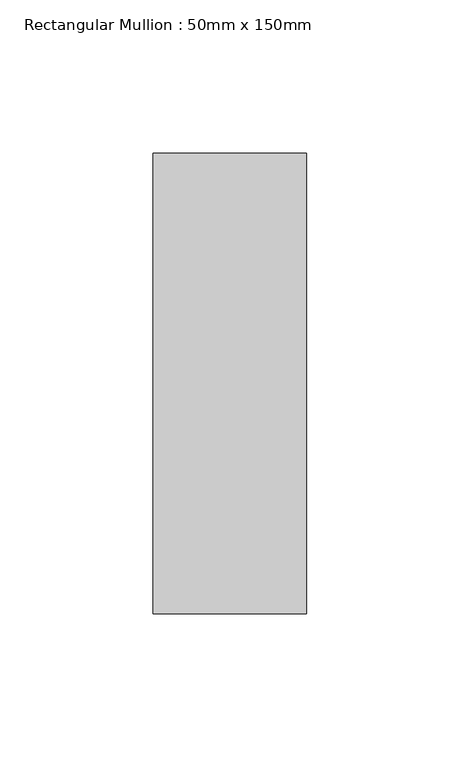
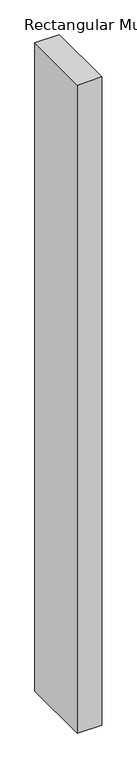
"""IFC4 building model written with IfcOpenShell, lengths in millimetres: member geometry, Rectangular Mullion : 50mm x 150mm."""

from ifc_helpers import new_model, si_unit, frame, origin, place, context, project, spatial, polyline, outline, extrude, source, transform, mapped, element, save


def rectangular_mullion_50mm_x_150mm_6edb5cd3(model_context):
    return source(origin(), model_context, "Body", "SweptSolid", [
        extrude(outline(polyline([(25.0, 75.0), (25.0, -75.0), (-25.0, -75.0), (-25.0, 75.0), (25.0, 75.0)])), frame((0.0, 0.0, -1402.3178264), z_axis=(0.0, 0.0, 1.0), x_axis=(1.0, 0.0, 0.0)), (0.0, 0.0, 1.0), 1402.3178264),
    ])


if __name__ == "__main__":
    model = new_model("IFC4")
    model_context = context("Model", 3, world=origin())
    ifc_project = project(units=[si_unit("LENGTHUNIT", "METRE", prefix="MILLI")], contexts=[model_context])
    site = spatial("IfcSite", under=ifc_project)
    building = spatial("IfcBuilding", under=site)
    placement = place(None, origin())
    rectangular_mullion_50mm_x_150mm_shape = rectangular_mullion_50mm_x_150mm_6edb5cd3(model_context)
    element("IfcMember", 1, ObjectType="Rectangular Mullion : 50mm x 150mm", at=placement, inside=building, context=model_context, shape_type="MappedRepresentation", body=[
        mapped(rectangular_mullion_50mm_x_150mm_shape, transform((0.0, 0.0, 0.0), x_axis=(1.0, 0.0, 0.0), y_axis=(0.0, 1.0, 0.0), z_axis=(0.0, 0.0, 1.0))),
    ])
    save(model, "model.ifc")
